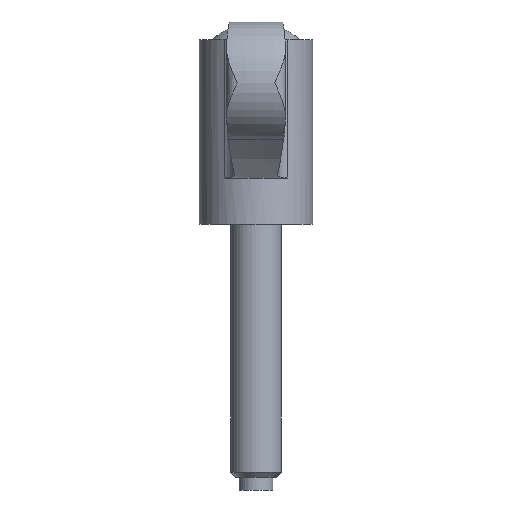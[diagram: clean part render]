
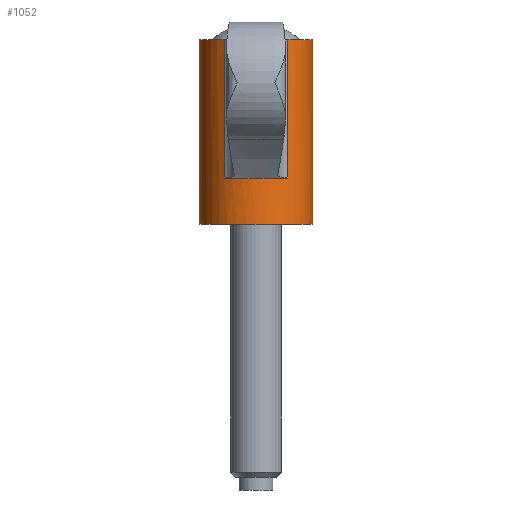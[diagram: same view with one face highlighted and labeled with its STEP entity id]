
A CAD part, left-side view. The second image highlights one B-rep face of the part: STEP entity #1052.
In plain terms, the highlighted cylindrical face has radius 6.75 mm (diameter 13.5 mm), a partial arc.
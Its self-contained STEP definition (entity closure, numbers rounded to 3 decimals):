
#8 = AXIS2_PLACEMENT_3D ( 'NONE', #632, #1296, #1528 ) ;
#30 = LINE ( 'NONE', #1380, #185 ) ;
#33 = EDGE_CURVE ( 'NONE', #888, #577, #1161, .T. ) ;
#47 = CARTESIAN_POINT ( 'NONE',  ( -5.585, 3.791, 5.5 ) ) ;
#49 = ORIENTED_EDGE ( 'NONE', *, *, #940, .T. ) ;
#142 = CARTESIAN_POINT ( 'NONE',  ( 0., 0., 24. ) ) ;
#143 = DIRECTION ( 'NONE',  ( 0., 0., -1. ) ) ;
#177 = VERTEX_POINT ( 'NONE', #47 ) ;
#185 = VECTOR ( 'NONE', #1263, 1000. ) ;
#238 = AXIS2_PLACEMENT_3D ( 'NONE', #1164, #246, #1566 ) ;
#241 = CARTESIAN_POINT ( 'NONE',  ( 0., 0., 0. ) ) ;
#246 = DIRECTION ( 'NONE',  ( 0., 0., -1. ) ) ;
#283 = CARTESIAN_POINT ( 'NONE',  ( -5.585, 3.791, 47. ) ) ;
#343 = CIRCLE ( 'NONE', #238, 6.75 ) ;
#353 = CARTESIAN_POINT ( 'NONE',  ( -5.585, -3.791, 5.5 ) ) ;
#379 = EDGE_CURVE ( 'NONE', #1252, #1008, #30, .T. ) ;
#382 = ORIENTED_EDGE ( 'NONE', *, *, #722, .T. ) ;
#407 = CYLINDRICAL_SURFACE ( 'NONE', #1438, 6.75 ) ;
#409 = LINE ( 'NONE', #1013, #1053 ) ;
#430 = DIRECTION ( 'NONE',  ( 0., 0., -1. ) ) ;
#463 = VECTOR ( 'NONE', #430, 1000. ) ;
#489 = CIRCLE ( 'NONE', #8, 6.75 ) ;
#510 = EDGE_CURVE ( 'NONE', #1260, #177, #595, .T. ) ;
#542 = CARTESIAN_POINT ( 'NONE',  ( -5.585, -3.791, 21.876 ) ) ;
#561 = CARTESIAN_POINT ( 'NONE',  ( 0., 6.75, 21.876 ) ) ;
#577 = VERTEX_POINT ( 'NONE', #948 ) ;
#579 = CARTESIAN_POINT ( 'NONE',  ( 0., -6.75, 24. ) ) ;
#590 = VECTOR ( 'NONE', #143, 1000. ) ;
#595 = LINE ( 'NONE', #283, #590 ) ;
#632 = CARTESIAN_POINT ( 'NONE',  ( 0., 0., 21.876 ) ) ;
#635 = EDGE_LOOP ( 'NONE', ( #652, #868, #1578, #764, #382, #1501, #49, #1496 ) ) ;
#652 = ORIENTED_EDGE ( 'NONE', *, *, #852, .T. ) ;
#705 = EDGE_CURVE ( 'NONE', #1165, #805, #409, .T. ) ;
#722 = EDGE_CURVE ( 'NONE', #888, #1252, #1034, .T. ) ;
#764 = ORIENTED_EDGE ( 'NONE', *, *, #33, .F. ) ;
#805 = VERTEX_POINT ( 'NONE', #1489 ) ;
#814 = CARTESIAN_POINT ( 'NONE',  ( 0., -6.75, 21.876 ) ) ;
#852 = EDGE_CURVE ( 'NONE', #1260, #1165, #489, .T. ) ;
#868 = ORIENTED_EDGE ( 'NONE', *, *, #705, .T. ) ;
#879 = AXIS2_PLACEMENT_3D ( 'NONE', #900, #1003, #1351 ) ;
#888 = VERTEX_POINT ( 'NONE', #814 ) ;
#899 = DIRECTION ( 'NONE',  ( 0., 0., -1. ) ) ;
#900 = CARTESIAN_POINT ( 'NONE',  ( 0., 0., 21.876 ) ) ;
#907 = CIRCLE ( 'NONE', #1103, 6.75 ) ;
#921 = CARTESIAN_POINT ( 'NONE',  ( -5.585, 3.791, 21.876 ) ) ;
#940 = EDGE_CURVE ( 'NONE', #1008, #177, #343, .T. ) ;
#948 = CARTESIAN_POINT ( 'NONE',  ( 0., -6.75, 0. ) ) ;
#1003 = DIRECTION ( 'NONE',  ( 0., 0., -1. ) ) ;
#1008 = VERTEX_POINT ( 'NONE', #353 ) ;
#1012 = EDGE_CURVE ( 'NONE', #577, #805, #907, .T. ) ;
#1013 = CARTESIAN_POINT ( 'NONE',  ( 0., 6.75, 24. ) ) ;
#1034 = CIRCLE ( 'NONE', #879, 6.75 ) ;
#1052 = ADVANCED_FACE ( 'NONE', ( #1478 ), #407, .T. ) ;
#1053 = VECTOR ( 'NONE', #1118, 1000. ) ;
#1103 = AXIS2_PLACEMENT_3D ( 'NONE', #241, #1581, #1189 ) ;
#1118 = DIRECTION ( 'NONE',  ( 0., 0., -1. ) ) ;
#1133 = DIRECTION ( 'NONE',  ( 0., -1., 0. ) ) ;
#1161 = LINE ( 'NONE', #579, #463 ) ;
#1164 = CARTESIAN_POINT ( 'NONE',  ( 0., 0., 5.5 ) ) ;
#1165 = VERTEX_POINT ( 'NONE', #561 ) ;
#1189 = DIRECTION ( 'NONE',  ( 0., -1., 0. ) ) ;
#1252 = VERTEX_POINT ( 'NONE', #542 ) ;
#1260 = VERTEX_POINT ( 'NONE', #921 ) ;
#1263 = DIRECTION ( 'NONE',  ( 0., 0., -1. ) ) ;
#1296 = DIRECTION ( 'NONE',  ( 0., 0., -1. ) ) ;
#1351 = DIRECTION ( 'NONE',  ( 0., 1., 0. ) ) ;
#1380 = CARTESIAN_POINT ( 'NONE',  ( -5.585, -3.791, 47. ) ) ;
#1438 = AXIS2_PLACEMENT_3D ( 'NONE', #142, #899, #1133 ) ;
#1478 = FACE_OUTER_BOUND ( 'NONE', #635, .T. ) ;
#1489 = CARTESIAN_POINT ( 'NONE',  ( 0., 6.75, 0. ) ) ;
#1496 = ORIENTED_EDGE ( 'NONE', *, *, #510, .F. ) ;
#1501 = ORIENTED_EDGE ( 'NONE', *, *, #379, .T. ) ;
#1528 = DIRECTION ( 'NONE',  ( 0., 1., 0. ) ) ;
#1566 = DIRECTION ( 'NONE',  ( 0., -1., 0. ) ) ;
#1578 = ORIENTED_EDGE ( 'NONE', *, *, #1012, .F. ) ;
#1581 = DIRECTION ( 'NONE',  ( 0., 0., -1. ) ) ;
